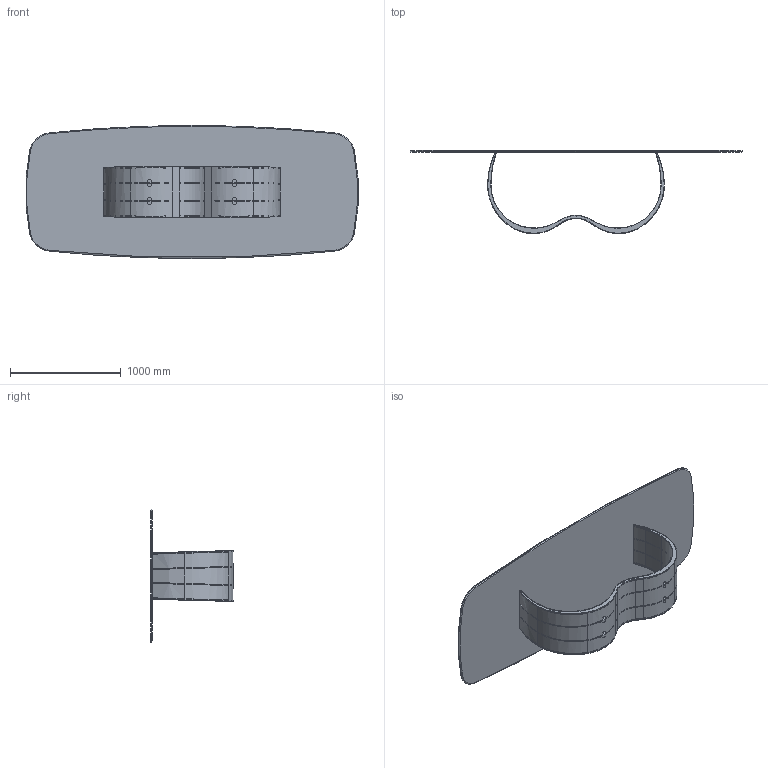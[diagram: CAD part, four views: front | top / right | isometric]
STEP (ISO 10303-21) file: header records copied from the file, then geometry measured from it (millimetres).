
FILE_DESCRIPTION (( 'STEP AP203' ), '1' );
FILE_NAME ('AI44C_Alisei_300x120_Ceramic Shaped.STEP', '2024-07-31T12:53:03', ( '' ), ( '' ), 'SwSTEP 2.0', 'SolidWorks 2022', '' );
FILE_SCHEMA (( 'CONFIG_CONTROL_DESIGN' ));
Length unit declared in the file: millimetre
Products named in the file (13): ALI000001_02-00-LAMIERA CALANDRATA INTERNA; SpecchiaturaBASE METALLO CURVATO_MEZZA COSTOLA INTERNA; SpecchiaturaBASE METALLO CURVATO_MEZZA COSTOLA; SpecchiaturaSpecchiaturaBASE METALLO CURVATO_MEZZA COSTOLA; K4XCMXX-00-Piani Sagomati in ceramica_3000 x 1200; ALI000001_01-00-LAMIERA CALANDRATA ESTERNA; ALI000001-00-ALISEI BASE METALLO L300 GREZZO; GOMMINO PVC; ALI000001_03-00-MEZZA COSTOLA INTERNA; ALI000001_04-00-MEZZA COSTOLA; SpecchiaturaSpecchiaturaBASE METALLO CURVATO_MEZZA COSTOLA INTERNA; AI44C_Alisei_300x120_Ceramic Shaped; ALI000001_05-00-APPOGGIO PIANO
Assembly tree (18 placements, depth 3):
  AI44C_Alisei_300x120_Ceramic Shaped
    ALI000001-00-ALISEI BASE METALLO L300 GREZZO
      ALI000001_01-00-LAMIERA CALANDRATA ESTERNA
      ALI000001_04-00-MEZZA COSTOLA
      SpecchiaturaBASE METALLO CURVATO_MEZZA COSTOLA  x2
      SpecchiaturaSpecchiaturaBASE METALLO CURVATO_MEZZA COSTOLA
      ALI000001_02-00-LAMIERA CALANDRATA INTERNA
      ALI000001_05-00-APPOGGIO PIANO  x2
      ALI000001_03-00-MEZZA COSTOLA INTERNA
      SpecchiaturaBASE METALLO CURVATO_MEZZA COSTOLA INTERNA  x2
      SpecchiaturaSpecchiaturaBASE METALLO CURVATO_MEZZA COSTOLA INTERNA
    GOMMINO PVC  x4
    K4XCMXX-00-Piani Sagomati in ceramica_3000 x 1200
Bounding box: 2991.72 x 747 x 1200 mm (x, y, z)
Volume: 60930463 mm3; surface area: 19193470.7 mm2
Topology: 18 solids, 18 shells, 900 faces, 2524 edges, 1660 vertices
Faces by surface type: bspline 397, plane 338, cylinder 140, torus 16, cone 9
Entity records: 33374 total; most frequent: CARTESIAN_POINT 15828, ORIENTED_EDGE 4302, DIRECTION 2173, EDGE_CURVE 2151, VERTEX_POINT 1419, VECTOR 1061, LINE 1061, EDGE_LOOP 850
